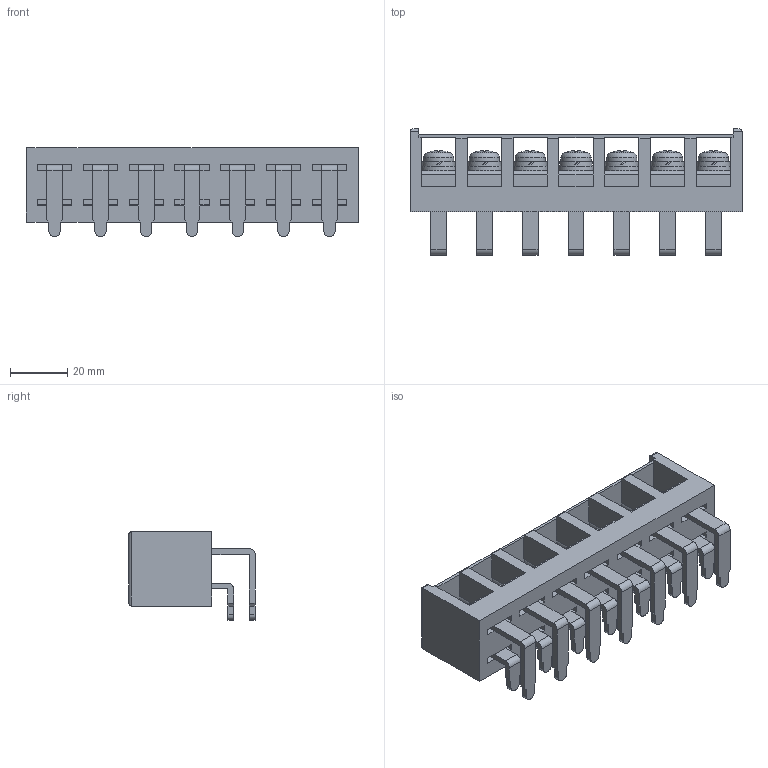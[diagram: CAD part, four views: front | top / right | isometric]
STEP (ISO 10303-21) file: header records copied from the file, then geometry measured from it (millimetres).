
FILE_DESCRIPTION(/* description */ ('Alibre Inc.'),/* implementation_level */ '2;1');
FILE_NAME(/* name */ 'export-ACB1300E-1807-48D7-A0DB-2EF7628D3BC7',/* time_stamp */ '2025-01-30T14:21:56+09:00',/* author */ (''),/* organization */ (''),/* preprocessor_version */ 'ST-DEVELOPER v17',/* originating_system */ 'Alibre',/* authorisation */ '');
FILE_SCHEMA (('CONFIG_CONTROL_DESIGN'));
Length unit declared in the file: millimetre
Bounding box: 116 x 44.1 x 31 mm (x, y, z)
Volume: 57615.3 mm3; surface area: 34395.8 mm2
Topology: 1 solids, 2 shells, 997 faces, 2814 edges, 1838 vertices
Faces by surface type: plane 688, bspline 150, cylinder 116, cone 29, torus 7, sphere 7
Full cylindrical faces by diameter (mm): 6 x1, 10.5 x7, 12.5 x6
Entity records: 30052 total; most frequent: CARTESIAN_POINT 6831, ORIENTED_EDGE 5558, DIRECTION 3481, EDGE_CURVE 2779, VERTEX_POINT 1825, VECTOR 1809, LINE 1809, AXIS2_PLACEMENT_3D 1117
